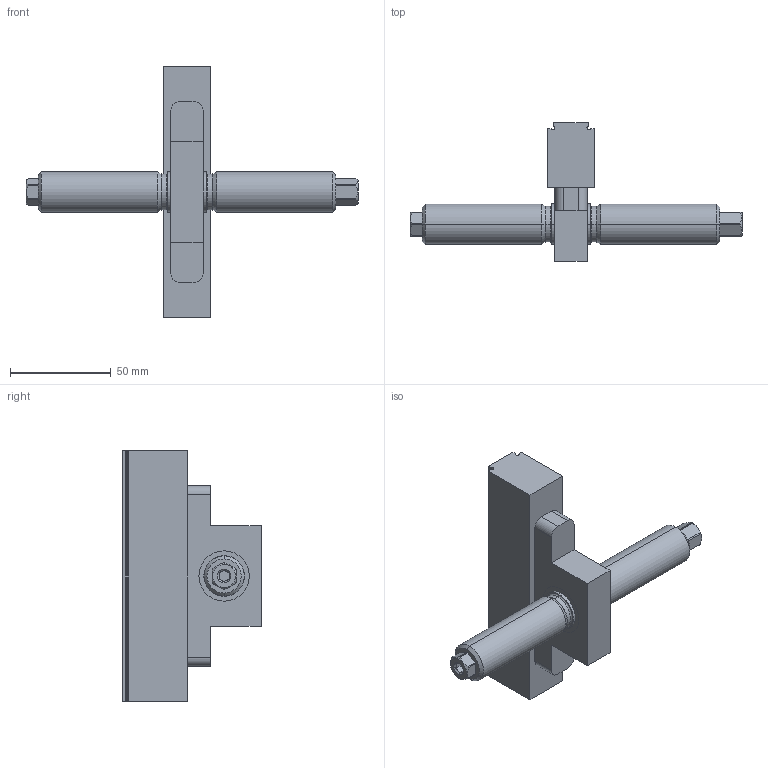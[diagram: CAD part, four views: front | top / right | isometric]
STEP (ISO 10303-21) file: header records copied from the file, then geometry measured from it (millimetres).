
FILE_DESCRIPTION (( 'STEP AP214' ), '1' );
FILE_NAME ('47155-TG17.STEP', '2023-02-20T08:59:25', ( '' ), ( '' ), 'SwSTEP 2.0', 'SolidWorks 2021', '' );
FILE_SCHEMA (( 'AUTOMOTIVE_DESIGN' ));
Length unit declared in the file: millimetre
Products named in the file (1): 47155-TG17
Bounding box: 165 x 68.8 x 124.6 mm (x, y, z)
Volume: 168275.2 mm3; surface area: 32775.1 mm2
Topology: 2 solids, 2 shells, 118 faces, 289 edges, 184 vertices
Faces by surface type: plane 57, cylinder 37, cone 16, torus 8
Entity records: 5026 total; most frequent: CARTESIAN_POINT 852, DIRECTION 607, ORIENTED_EDGE 578, EDGE_CURVE 289, AXIS2_PLACEMENT_3D 223, VERTEX_POINT 184, VECTOR 161, LINE 161
